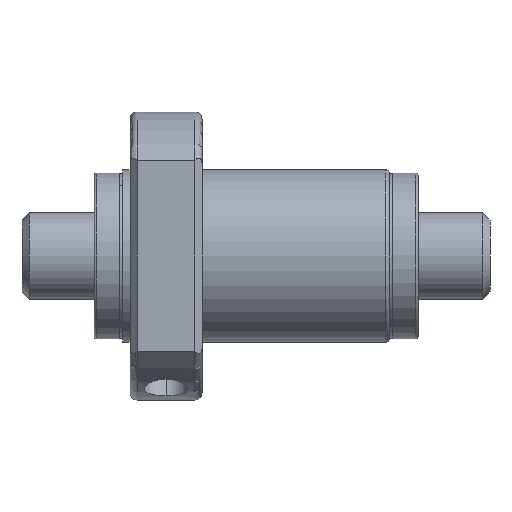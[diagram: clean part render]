
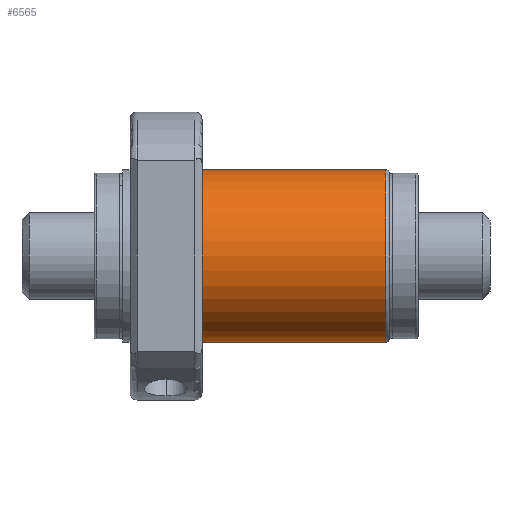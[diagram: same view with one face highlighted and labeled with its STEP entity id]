
A CAD part, front view. The second image highlights one B-rep face of the part: STEP entity #6565.
In plain terms, the highlighted cylindrical face has radius 12 mm (diameter 24 mm), a partial arc.
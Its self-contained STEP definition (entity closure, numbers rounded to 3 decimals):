
#423 = LINE ( 'NONE', #3827, #5741 ) ;
#513 = DIRECTION ( 'NONE',  ( 0., 0., 1. ) ) ;
#551 = CYLINDRICAL_SURFACE ( 'NONE', #6688, 12. ) ;
#777 = EDGE_CURVE ( 'NONE', #1830, #5048, #6414, .T. ) ;
#859 = AXIS2_PLACEMENT_3D ( 'NONE', #1482, #2405, #3498 ) ;
#1169 = DIRECTION ( 'NONE',  ( -1., 0., 0. ) ) ;
#1482 = CARTESIAN_POINT ( 'NONE',  ( 15., 0., 0. ) ) ;
#1530 = ORIENTED_EDGE ( 'NONE', *, *, #6388, .F. ) ;
#1570 = DIRECTION ( 'NONE',  ( -1., 0., 0. ) ) ;
#1694 = CARTESIAN_POINT ( 'NONE',  ( 0., 0., 12. ) ) ;
#1807 = VERTEX_POINT ( 'NONE', #5425 ) ;
#1830 = VERTEX_POINT ( 'NONE', #5868 ) ;
#1900 = EDGE_CURVE ( 'NONE', #1830, #1807, #423, .T. ) ;
#2027 = LINE ( 'NONE', #1694, #3202 ) ;
#2323 = CARTESIAN_POINT ( 'NONE',  ( 15., 0., 12. ) ) ;
#2405 = DIRECTION ( 'NONE',  ( -1., 0., 0. ) ) ;
#2906 = ORIENTED_EDGE ( 'NONE', *, *, #1900, .F. ) ;
#3202 = VECTOR ( 'NONE', #5406, 1000. ) ;
#3222 = DIRECTION ( 'NONE',  ( -1., 0., 0. ) ) ;
#3310 = ORIENTED_EDGE ( 'NONE', *, *, #777, .T. ) ;
#3498 = DIRECTION ( 'NONE',  ( 0., 0., 1. ) ) ;
#3668 = EDGE_LOOP ( 'NONE', ( #2906, #3310, #4959, #1530 ) ) ;
#3827 = CARTESIAN_POINT ( 'NONE',  ( 0., 0., -12. ) ) ;
#4159 = CARTESIAN_POINT ( 'NONE',  ( 0., 0., 0. ) ) ;
#4279 = CARTESIAN_POINT ( 'NONE',  ( 40.5, 0., 0. ) ) ;
#4298 = DIRECTION ( 'NONE',  ( 0., 0., -1. ) ) ;
#4466 = EDGE_CURVE ( 'NONE', #5048, #6689, #2027, .T. ) ;
#4503 = AXIS2_PLACEMENT_3D ( 'NONE', #4279, #3222, #4298 ) ;
#4944 = CARTESIAN_POINT ( 'NONE',  ( 40.5, 0., 12. ) ) ;
#4959 = ORIENTED_EDGE ( 'NONE', *, *, #4466, .T. ) ;
#5048 = VERTEX_POINT ( 'NONE', #4944 ) ;
#5168 = FACE_OUTER_BOUND ( 'NONE', #3668, .T. ) ;
#5406 = DIRECTION ( 'NONE',  ( -1., 0., 0. ) ) ;
#5425 = CARTESIAN_POINT ( 'NONE',  ( 15., 0., -12. ) ) ;
#5741 = VECTOR ( 'NONE', #1169, 1000. ) ;
#5830 = CIRCLE ( 'NONE', #859, 12. ) ;
#5868 = CARTESIAN_POINT ( 'NONE',  ( 40.5, 0., -12. ) ) ;
#6388 = EDGE_CURVE ( 'NONE', #1807, #6689, #5830, .T. ) ;
#6414 = CIRCLE ( 'NONE', #4503, 12. ) ;
#6565 = ADVANCED_FACE ( 'NONE', ( #5168 ), #551, .T. ) ;
#6688 = AXIS2_PLACEMENT_3D ( 'NONE', #4159, #1570, #513 ) ;
#6689 = VERTEX_POINT ( 'NONE', #2323 ) ;
